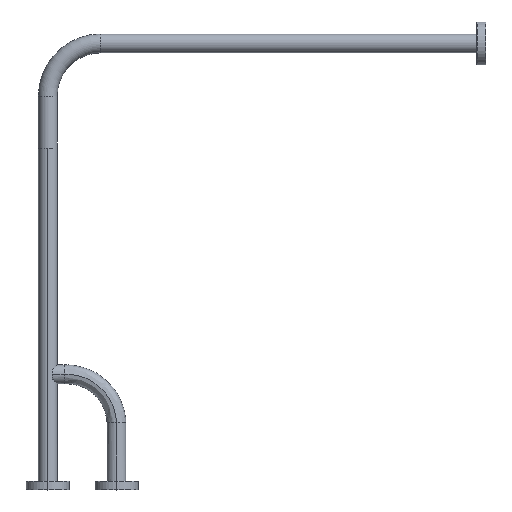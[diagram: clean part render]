
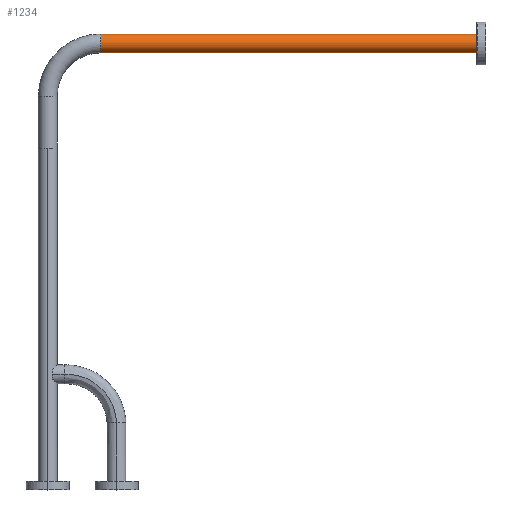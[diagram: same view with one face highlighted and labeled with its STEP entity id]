
A CAD part, top view. The second image highlights one B-rep face of the part: STEP entity #1234.
In plain terms, the highlighted cylindrical face has radius 16 mm (diameter 32 mm), a partial arc.
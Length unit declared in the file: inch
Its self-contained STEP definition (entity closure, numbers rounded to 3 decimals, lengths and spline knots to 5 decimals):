
#34 = AXIS2_PLACEMENT_3D ( 'NONE', #1231, #405, #1747 ) ;
#155 = DIRECTION ( 'NONE',  ( 1., 0., 0. ) ) ;
#278 = DIRECTION ( 'NONE',  ( -1., 0., 0. ) ) ;
#346 = ORIENTED_EDGE ( 'NONE', *, *, #1440, .T. ) ;
#405 = DIRECTION ( 'NONE',  ( -1., 0., 0. ) ) ;
#427 = LINE ( 'NONE', #604, #1379 ) ;
#463 = EDGE_LOOP ( 'NONE', ( #1139, #2072, #346, #642 ) ) ;
#502 = CARTESIAN_POINT ( 'NONE',  ( 1.23749, 29.96005, 0.00097 ) ) ;
#526 = CIRCLE ( 'NONE', #1772, 0.62992 ) ;
#604 = CARTESIAN_POINT ( 'NONE',  ( 26.43434, 28.70021, 0.00097 ) ) ;
#642 = ORIENTED_EDGE ( 'NONE', *, *, #1138, .F. ) ;
#647 = FACE_OUTER_BOUND ( 'NONE', #463, .T. ) ;
#672 = LINE ( 'NONE', #1122, #1015 ) ;
#809 = CYLINDRICAL_SURFACE ( 'NONE', #1061, 0.62992 ) ;
#924 = CIRCLE ( 'NONE', #34, 0.62992 ) ;
#934 = VERTEX_POINT ( 'NONE', #502 ) ;
#1001 = DIRECTION ( 'NONE',  ( 0., -1., 0. ) ) ;
#1015 = VECTOR ( 'NONE', #1166, 39.37008 ) ;
#1061 = AXIS2_PLACEMENT_3D ( 'NONE', #1319, #278, #1130 ) ;
#1122 = CARTESIAN_POINT ( 'NONE',  ( 26.43434, 29.96005, 0.00097 ) ) ;
#1130 = DIRECTION ( 'NONE',  ( 0., -1., 0. ) ) ;
#1138 = EDGE_CURVE ( 'NONE', #1481, #1589, #427, .T. ) ;
#1139 = ORIENTED_EDGE ( 'NONE', *, *, #1153, .T. ) ;
#1153 = EDGE_CURVE ( 'NONE', #1481, #1311, #924, .T. ) ;
#1166 = DIRECTION ( 'NONE',  ( -1., 0., 0. ) ) ;
#1231 = CARTESIAN_POINT ( 'NONE',  ( 26.43434, 29.33013, 0.00097 ) ) ;
#1234 = ADVANCED_FACE ( 'NONE', ( #647 ), #809, .T. ) ;
#1311 = VERTEX_POINT ( 'NONE', #1620 ) ;
#1319 = CARTESIAN_POINT ( 'NONE',  ( 26.43434, 29.33013, 0.00097 ) ) ;
#1347 = CARTESIAN_POINT ( 'NONE',  ( 26.43434, 28.70021, 0.00097 ) ) ;
#1379 = VECTOR ( 'NONE', #1939, 39.37008 ) ;
#1440 = EDGE_CURVE ( 'NONE', #934, #1589, #526, .T. ) ;
#1481 = VERTEX_POINT ( 'NONE', #1347 ) ;
#1589 = VERTEX_POINT ( 'NONE', #1644 ) ;
#1620 = CARTESIAN_POINT ( 'NONE',  ( 26.43434, 29.96005, 0.00097 ) ) ;
#1644 = CARTESIAN_POINT ( 'NONE',  ( 1.23749, 28.70021, 0.00097 ) ) ;
#1676 = CARTESIAN_POINT ( 'NONE',  ( 1.23749, 29.33013, 0.00097 ) ) ;
#1747 = DIRECTION ( 'NONE',  ( 0., -1., 0. ) ) ;
#1772 = AXIS2_PLACEMENT_3D ( 'NONE', #1676, #155, #1001 ) ;
#1873 = EDGE_CURVE ( 'NONE', #1311, #934, #672, .T. ) ;
#1939 = DIRECTION ( 'NONE',  ( -1., 0., 0. ) ) ;
#2072 = ORIENTED_EDGE ( 'NONE', *, *, #1873, .T. ) ;
